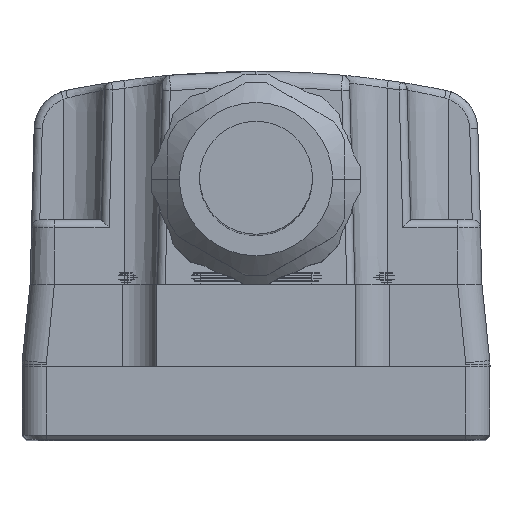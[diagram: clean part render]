
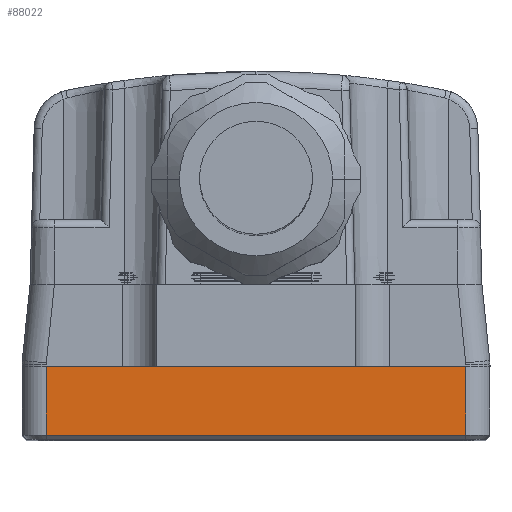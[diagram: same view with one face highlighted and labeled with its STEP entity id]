
A CAD part, top view. The second image highlights one B-rep face of the part: STEP entity #88022.
In plain terms, the highlighted planar face has unit normal (0, 0, 1).
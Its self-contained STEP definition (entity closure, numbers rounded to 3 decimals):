
#21238=DIRECTION('',(1.,0.,0.));
#21239=VECTOR('',#21238,52.);
#21240=CARTESIAN_POINT('',(-31.353,42.542,
161.11));
#21241=LINE('',#21240,#21239);
#23935=DIRECTION('',(0.,-1.,0.));
#23936=VECTOR('',#23935,8.5);
#23937=CARTESIAN_POINT('',(20.647,42.542,161.11));
#23938=LINE('',#23937,#23936);
#24767=DIRECTION('',(0.,1.,0.));
#24768=VECTOR('',#24767,8.5);
#24769=CARTESIAN_POINT('',(-31.353,34.042,
161.11));
#24770=LINE('',#24769,#24768);
#24775=DIRECTION('',(1.,0.,0.));
#24776=VECTOR('',#24775,52.);
#24777=CARTESIAN_POINT('',(-31.353,34.042,
161.11));
#24778=LINE('',#24777,#24776);
#69104=CARTESIAN_POINT('',(-31.353,34.042,
161.11));
#69105=CARTESIAN_POINT('',(-31.353,42.542,
161.11));
#69106=VERTEX_POINT('',#69104);
#69107=VERTEX_POINT('',#69105);
#75657=CARTESIAN_POINT('',(20.647,34.042,161.11));
#75659=VERTEX_POINT('',#75657);
#76422=CARTESIAN_POINT('',(20.647,42.542,161.11));
#76424=VERTEX_POINT('',#76422);
#88011=CARTESIAN_POINT('',(-5.353,38.042,
161.11));
#88012=DIRECTION('',(0.,0.,1.));
#88013=DIRECTION('',(1.,0.,0.));
#88014=AXIS2_PLACEMENT_3D('',#88011,#88012,#88013);
#88015=PLANE('',#88014);
#88016=ORIENTED_EDGE('',*,*,#86812,.T.);
#88017=ORIENTED_EDGE('',*,*,#86840,.F.);
#88018=ORIENTED_EDGE('',*,*,#88003,.T.);
#88019=ORIENTED_EDGE('',*,*,#83181,.T.);
#88020=EDGE_LOOP('',(#88016,#88017,#88018,#88019));
#88021=FACE_OUTER_BOUND('',#88020,.F.);
#88022=ADVANCED_FACE('',(#88021),#88015,.T.);
#83181=EDGE_CURVE('',#69107,#76424,#21241,.T.);
#86812=EDGE_CURVE('',#76424,#75659,#23938,.T.);
#86840=EDGE_CURVE('',#69106,#75659,#24778,.T.);
#88003=EDGE_CURVE('',#69106,#69107,#24770,.T.);
